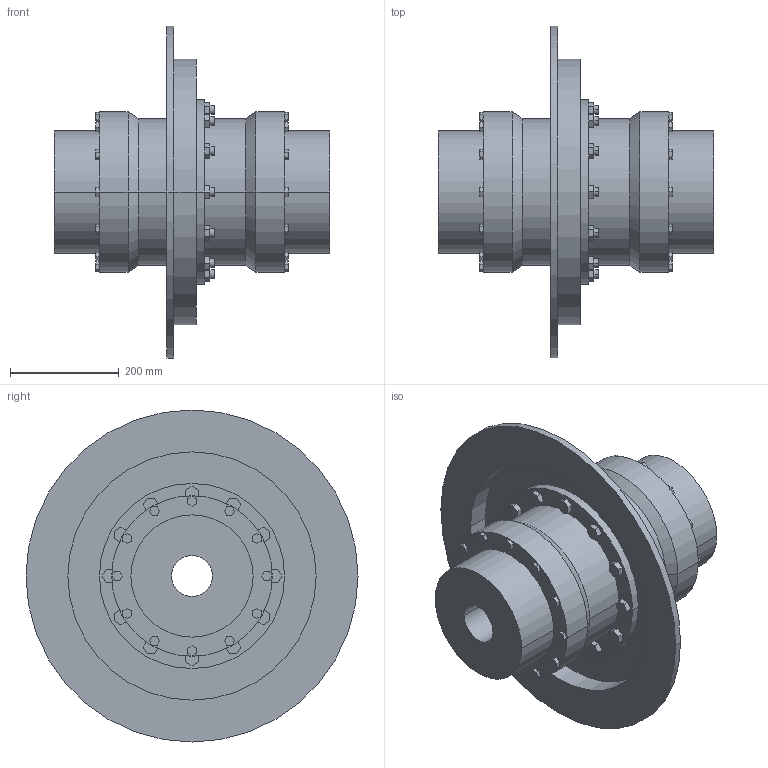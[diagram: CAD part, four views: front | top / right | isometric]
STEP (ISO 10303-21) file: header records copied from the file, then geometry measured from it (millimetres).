
FILE_DESCRIPTION((''),'2;1');
FILE_NAME('A19727600-0_ASM','2019-05-23T',('AB_Roschiwal'),('RENK AG'),'PRO/ENGINEER BY PARAMETRIC TECHNOLOGY CORPORATION, 2015440','PRO/ENGINEER BY PARAMETRIC TECHNOLOGY CORPORATION, 2015440','');
FILE_SCHEMA(('CONFIG_CONTROL_DESIGN'));
Length unit declared in the file: millimetre
Products named in the file (4): SBKT140_GEHAEUSE; SBKT140_NABE; SBKT140_BREMSSCHEIBE; A19727600-0_ASM
Assembly tree (4 placements, depth 2):
  A19727600-0_ASM
    SBKT140_GEHAEUSE
    SBKT140_NABE  x2
    SBKT140_BREMSSCHEIBE
Bounding box: 507 x 610 x 610 mm (x, y, z)
Volume: 23135175 mm3; surface area: 1935891.6 mm2
Topology: 4 solids, 4 shells, 470 faces, 1156 edges, 768 vertices
Faces by surface type: plane 370, cylinder 96, cone 4
Entity records: 13604 total; most frequent: CARTESIAN_POINT 2350, ORIENTED_EDGE 2264, DIRECTION 2240, EDGE_CURVE 1132, VECTOR 956, LINE 956, VERTEX_POINT 752, AXIS2_PLACEMENT_3D 642
